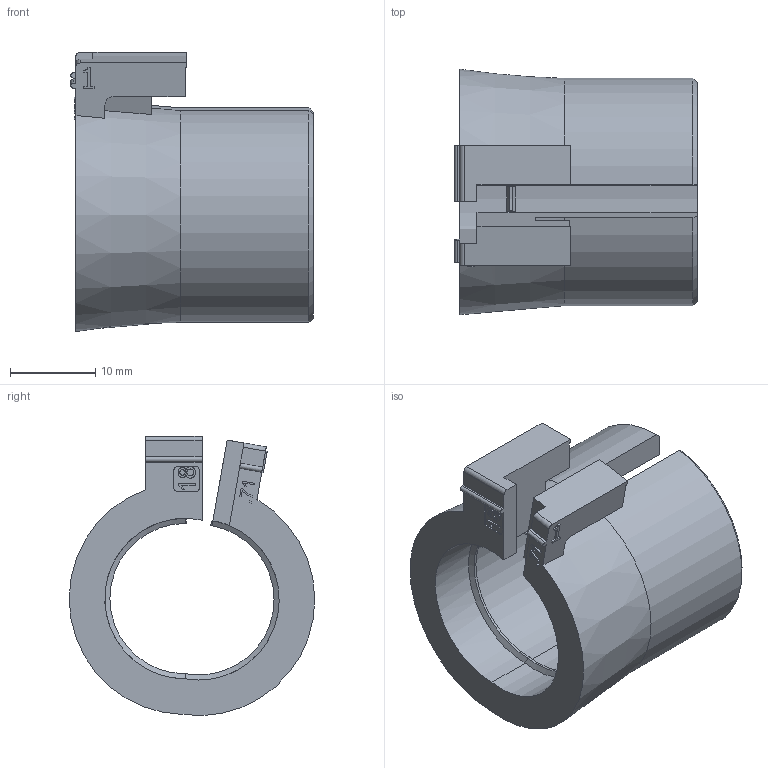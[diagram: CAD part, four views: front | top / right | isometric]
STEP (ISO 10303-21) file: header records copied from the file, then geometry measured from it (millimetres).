
FILE_DESCRIPTION(/* description */ (''),/* implementation_level */ '2;1');
FILE_NAME(/* name */ 'C:\SapWorkDir\Inventor\MP1\ConvertTempPath\87_12_121362_00_A_220530_KDT-X 18.stp',/* time_stamp */ '2022-05-31T15:57:34+02:00',/* author */ ('BAUER'),/* organization */ (''),/* preprocessor_version */ 'ST-DEVELOPER v16.13',/* originating_system */ 'Autodesk Inventor 2018',/* authorisation */ '');
FILE_SCHEMA (('AUTOMOTIVE_DESIGN { 1 0 10303 214 3 1 1 }'));
Length unit declared in the file: millimetre
Products named in the file (1): 121362
Bounding box: 28.4 x 28.77 x 32.71 mm (x, y, z)
Volume: 7045.9 mm3; surface area: 5124.8 mm2
Topology: 1 solids, 1 shells, 145 faces, 384 edges, 250 vertices
Faces by surface type: plane 89, bspline 24, cylinder 24, cone 8
Entity records: 4718 total; most frequent: CARTESIAN_POINT 1087, ORIENTED_EDGE 768, DIRECTION 631, EDGE_CURVE 384, LINE 271, VECTOR 271, VERTEX_POINT 250, AXIS2_PLACEMENT_3D 180
